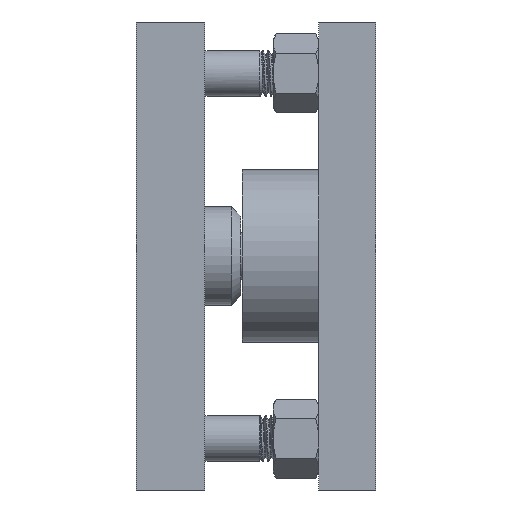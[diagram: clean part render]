
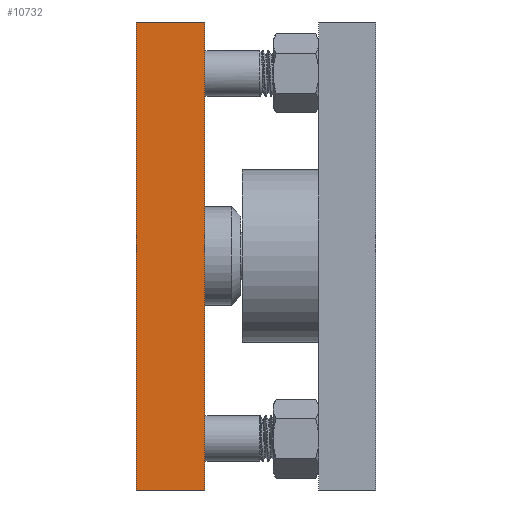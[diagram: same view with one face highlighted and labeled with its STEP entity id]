
A CAD part, left-side view. The second image highlights one B-rep face of the part: STEP entity #10732.
In plain terms, the highlighted planar face has unit normal (-1, 0, 0).
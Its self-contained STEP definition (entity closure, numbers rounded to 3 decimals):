
#296=PLANE('',#11531);
#1004=FACE_OUTER_BOUND('',#1669,.T.);
#1669=EDGE_LOOP('',(#8990,#8991,#8992,#8993));
#3061=LINE('',#38143,#3665);
#3080=LINE('',#38198,#3684);
#3081=LINE('',#38201,#3685);
#3082=LINE('',#38202,#3686);
#3665=VECTOR('',#13265,10.);
#3684=VECTOR('',#13322,10.);
#3685=VECTOR('',#13325,10.);
#3686=VECTOR('',#13326,10.);
#4607=VERTEX_POINT('',#38136);
#4610=VERTEX_POINT('',#38141);
#4627=VERTEX_POINT('',#38195);
#4628=VERTEX_POINT('',#38200);
#6099=EDGE_CURVE('',#4610,#4607,#3061,.T.);
#6127=EDGE_CURVE('',#4627,#4607,#3080,.T.);
#6128=EDGE_CURVE('',#4627,#4628,#3081,.T.);
#6129=EDGE_CURVE('',#4628,#4610,#3082,.T.);
#8990=ORIENTED_EDGE('',*,*,#6128,.F.);
#8991=ORIENTED_EDGE('',*,*,#6127,.T.);
#8992=ORIENTED_EDGE('',*,*,#6099,.F.);
#8993=ORIENTED_EDGE('',*,*,#6129,.F.);
#10732=ADVANCED_FACE('',(#1004),#296,.T.);
#11531=AXIS2_PLACEMENT_3D('',#38199,#13323,#13324);
#13265=DIRECTION('',(0.,0.,-1.));
#13322=DIRECTION('',(0.,-1.,0.));
#13323=DIRECTION('center_axis',(-1.,0.,0.));
#13324=DIRECTION('ref_axis',(0.,0.,-1.));
#13325=DIRECTION('',(0.,0.,1.));
#13326=DIRECTION('',(0.,-1.,0.));
#38136=CARTESIAN_POINT('',(-80.,75.,-102.5));
#38141=CARTESIAN_POINT('',(-80.,75.,102.5));
#38143=CARTESIAN_POINT('',(-80.,75.,51.25));
#38195=CARTESIAN_POINT('',(-80.,105.,-102.5));
#38198=CARTESIAN_POINT('',(-80.,105.,-102.5));
#38199=CARTESIAN_POINT('Origin',(-80.,105.,102.5));
#38200=CARTESIAN_POINT('',(-80.,105.,102.5));
#38201=CARTESIAN_POINT('',(-80.,105.,-102.5));
#38202=CARTESIAN_POINT('',(-80.,105.,102.5));
